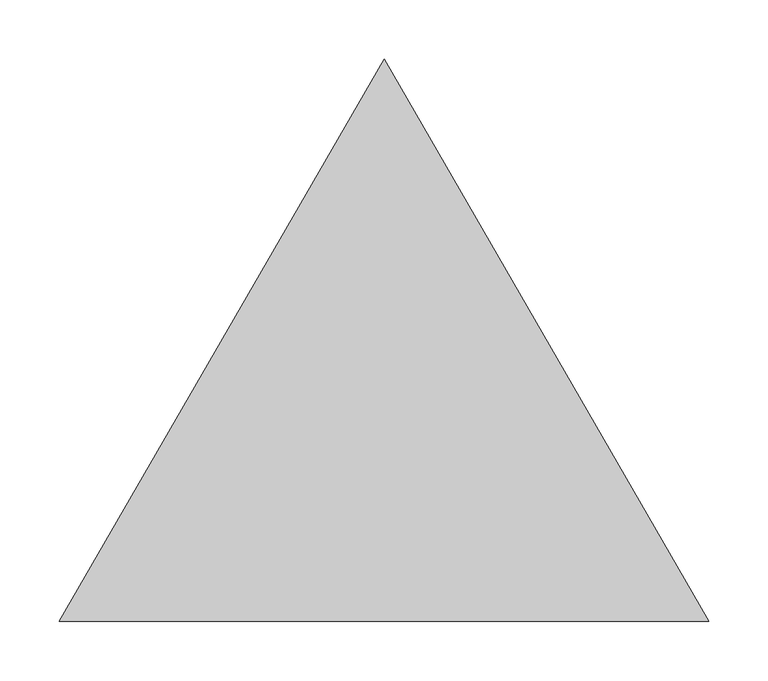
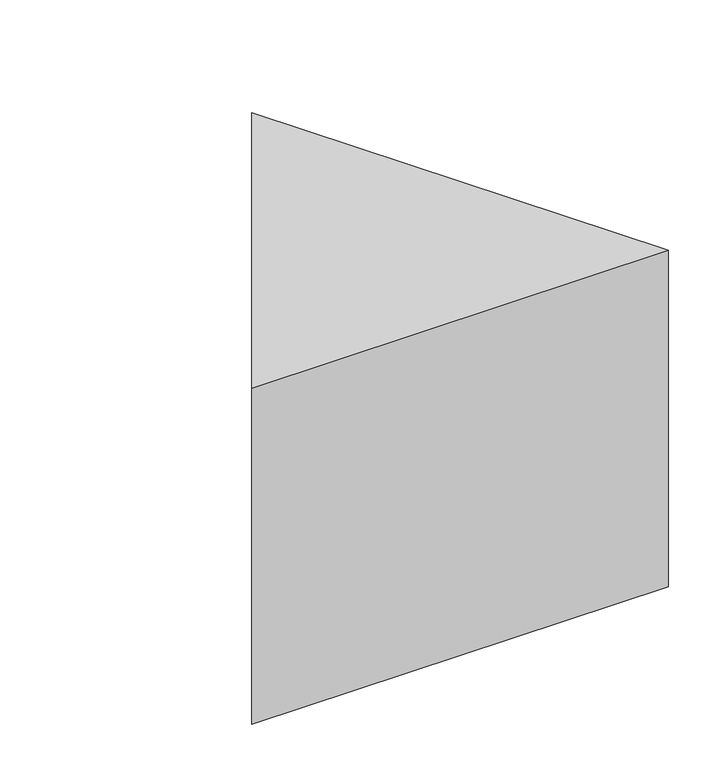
"""IFC4 building model written with IfcOpenShell, lengths in millimetres: furniture geometry, Hive Triangle Ottoman : Hive Triangle Ottoman."""

from ifc_helpers import new_model, si_unit, origin, origin_with_axes, place, context, project, spatial, polyline, outline, extrude, source, transform, mapped, element, save


def furniture_a358f8d0(model_context):
    return source(origin(), model_context, "Body", "SweptSolid", [
        extrude(outline(polyline([(275.3000057, 476.8336771), (550.6, 0.0), (0.0, 0.0), (275.3000057, 476.8336771)])), origin_with_axes(), (0.0, 0.0, 1.0), 470.0381279),
    ])


if __name__ == "__main__":
    model = new_model("IFC4")
    model_context = context("Model", 3, world=origin())
    ifc_project = project(units=[si_unit("LENGTHUNIT", "METRE", prefix="MILLI")], contexts=[model_context])
    site = spatial("IfcSite", under=ifc_project)
    building = spatial("IfcBuilding", under=site)
    placement = place(None, origin())
    furniture_shape = furniture_a358f8d0(model_context)
    element("IfcFurniture", 1, ObjectType="Hive Triangle Ottoman : Hive Triangle Ottoman", at=placement, inside=building, context=model_context, shape_type="MappedRepresentation", body=[
        mapped(furniture_shape, transform((0.0, 0.0, 0.0), x_axis=(1.0, 0.0, 0.0), y_axis=(0.0, 1.0, 0.0), z_axis=(0.0, 0.0, 1.0))),
    ])
    save(model, "model.ifc")
